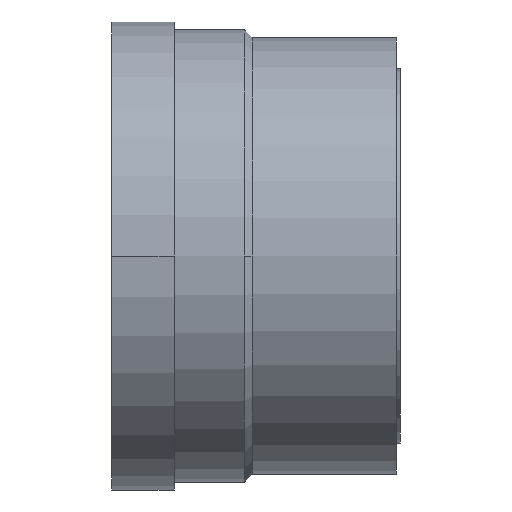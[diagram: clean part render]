
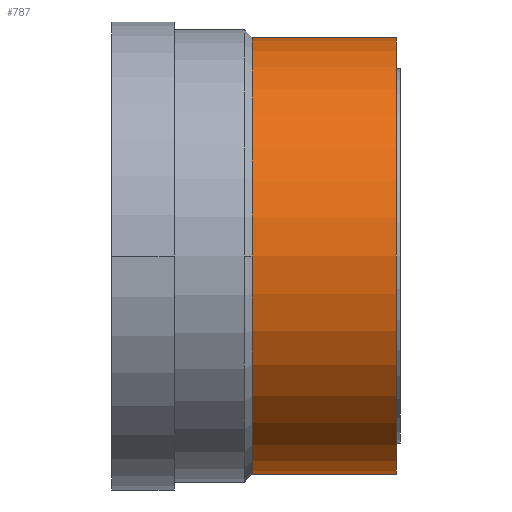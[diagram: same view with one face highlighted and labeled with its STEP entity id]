
A CAD part, left-side view. The second image highlights one B-rep face of the part: STEP entity #787.
In plain terms, the highlighted cylindrical face has radius 28 mm (diameter 56 mm), a partial arc.
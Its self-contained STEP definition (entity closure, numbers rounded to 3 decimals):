
#311 = DIRECTION ( 'NONE',  ( 0., 0., 1. ) ) ;
#378 = DIRECTION ( 'NONE',  ( 0., 1., 0. ) ) ;
#731 = LINE ( 'NONE', #1933, #6906 ) ;
#741 = CARTESIAN_POINT ( 'NONE',  ( -28., -5., 0. ) ) ;
#787 = ADVANCED_FACE ( 'NONE', ( #2115 ), #1983, .T. ) ;
#806 = VERTEX_POINT ( 'NONE', #741 ) ;
#834 = CIRCLE ( 'NONE', #7305, 28. ) ;
#1084 = CARTESIAN_POINT ( 'NONE',  ( 0., -23.5, 0. ) ) ;
#1150 = EDGE_CURVE ( 'NONE', #2266, #2643, #731, .T. ) ;
#1341 = VECTOR ( 'NONE', #378, 1000. ) ;
#1355 = EDGE_CURVE ( 'NONE', #4480, #806, #4546, .T. ) ;
#1535 = EDGE_CURVE ( 'NONE', #2634, #2266, #3090, .T. ) ;
#1631 = LINE ( 'NONE', #4155, #1341 ) ;
#1837 = CARTESIAN_POINT ( 'NONE',  ( 0., -23.5, -28. ) ) ;
#1905 = ORIENTED_EDGE ( 'NONE', *, *, #1535, .F. ) ;
#1933 = CARTESIAN_POINT ( 'NONE',  ( 0., -23.5, -28. ) ) ;
#1983 = CYLINDRICAL_SURFACE ( 'NONE', #7158, 28. ) ;
#2115 = FACE_OUTER_BOUND ( 'NONE', #7349, .T. ) ;
#2266 = VERTEX_POINT ( 'NONE', #1837 ) ;
#2576 = DIRECTION ( 'NONE',  ( 0., 0., 1. ) ) ;
#2634 = VERTEX_POINT ( 'NONE', #2846 ) ;
#2643 = VERTEX_POINT ( 'NONE', #4930 ) ;
#2846 = CARTESIAN_POINT ( 'NONE',  ( 0., -23.5, 28. ) ) ;
#2915 = DIRECTION ( 'NONE',  ( 0., 0., 1. ) ) ;
#3090 = CIRCLE ( 'NONE', #5866, 28. ) ;
#3394 = ORIENTED_EDGE ( 'NONE', *, *, #7246, .T. ) ;
#3401 = DIRECTION ( 'NONE',  ( 0., 1., 0. ) ) ;
#3456 = CARTESIAN_POINT ( 'NONE',  ( 0., -5., 0. ) ) ;
#4155 = CARTESIAN_POINT ( 'NONE',  ( 0., -23.5, 28. ) ) ;
#4236 = CARTESIAN_POINT ( 'NONE',  ( 0., -5., 28. ) ) ;
#4480 = VERTEX_POINT ( 'NONE', #4236 ) ;
#4546 = CIRCLE ( 'NONE', #5989, 28. ) ;
#4566 = ORIENTED_EDGE ( 'NONE', *, *, #1150, .F. ) ;
#4819 = EDGE_CURVE ( 'NONE', #2634, #4480, #1631, .T. ) ;
#4930 = CARTESIAN_POINT ( 'NONE',  ( 0., -5., -28. ) ) ;
#5866 = AXIS2_PLACEMENT_3D ( 'NONE', #1084, #7304, #2576 ) ;
#5974 = DIRECTION ( 'NONE',  ( 0., -1., 0. ) ) ;
#5989 = AXIS2_PLACEMENT_3D ( 'NONE', #3456, #5974, #311 ) ;
#6160 = DIRECTION ( 'NONE',  ( 0., -1., 0. ) ) ;
#6602 = ORIENTED_EDGE ( 'NONE', *, *, #1355, .T. ) ;
#6906 = VECTOR ( 'NONE', #7104, 1000. ) ;
#6984 = DIRECTION ( 'NONE',  ( 0., 0., 1. ) ) ;
#7071 = ORIENTED_EDGE ( 'NONE', *, *, #4819, .T. ) ;
#7104 = DIRECTION ( 'NONE',  ( 0., 1., 0. ) ) ;
#7158 = AXIS2_PLACEMENT_3D ( 'NONE', #7697, #3401, #6984 ) ;
#7246 = EDGE_CURVE ( 'NONE', #806, #2643, #834, .T. ) ;
#7304 = DIRECTION ( 'NONE',  ( 0., -1., 0. ) ) ;
#7305 = AXIS2_PLACEMENT_3D ( 'NONE', #7923, #6160, #2915 ) ;
#7349 = EDGE_LOOP ( 'NONE', ( #4566, #1905, #7071, #6602, #3394 ) ) ;
#7697 = CARTESIAN_POINT ( 'NONE',  ( 0., -23.5, 0. ) ) ;
#7923 = CARTESIAN_POINT ( 'NONE',  ( 0., -5., 0. ) ) ;
